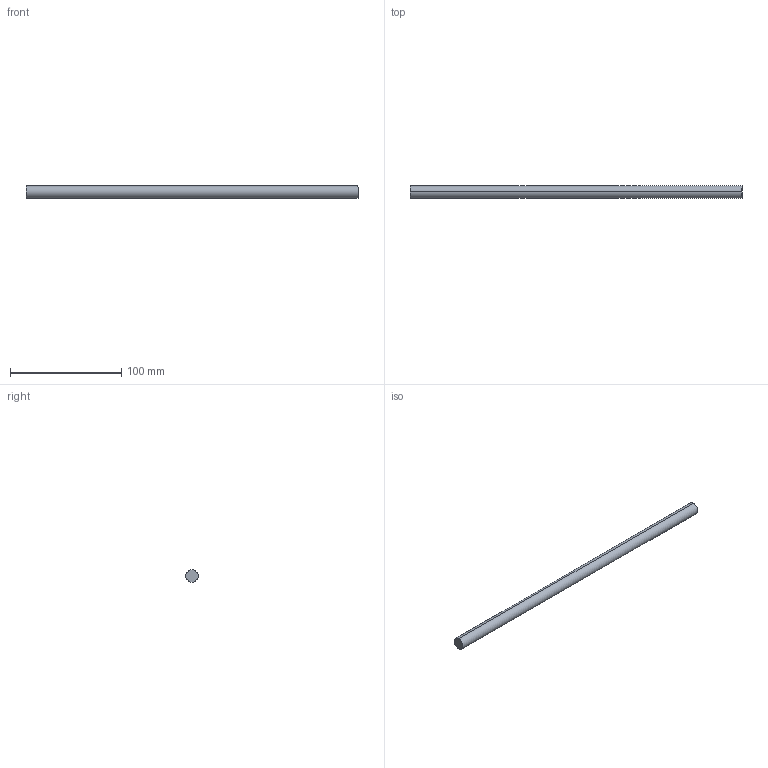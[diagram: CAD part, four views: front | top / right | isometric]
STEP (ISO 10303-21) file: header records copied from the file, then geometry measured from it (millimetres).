
FILE_DESCRIPTION (( 'STEP AP214' ), '1' );
FILE_NAME ('Querreling_2S-Rel_7102_KAB-400.step', '2010-09-22T15:05:50', ( 'grass' ), ( '' ), 'SwSTEP 2.0', 'SolidWorks 2010', '' );
FILE_SCHEMA (( 'AUTOMOTIVE_DESIGN' ));
Length unit declared in the file: millimetre
Products named in the file (1): Querreling_2S-Rel_7102_KAB-400
Bounding box: 299 x 11 x 11 mm (x, y, z)
Volume: 28414.9 mm3; surface area: 10522.8 mm2
Topology: 1 solids, 1 shells, 4 faces, 6 edges, 4 vertices
Faces by surface type: cylinder 2, plane 2
Entity records: 128 total; most frequent: DIRECTION 20, CARTESIAN_POINT 15, ORIENTED_EDGE 12, AXIS2_PLACEMENT_3D 9, EDGE_CURVE 6, VERTEX_POINT 4, EDGE_LOOP 4, FACE_OUTER_BOUND 4
